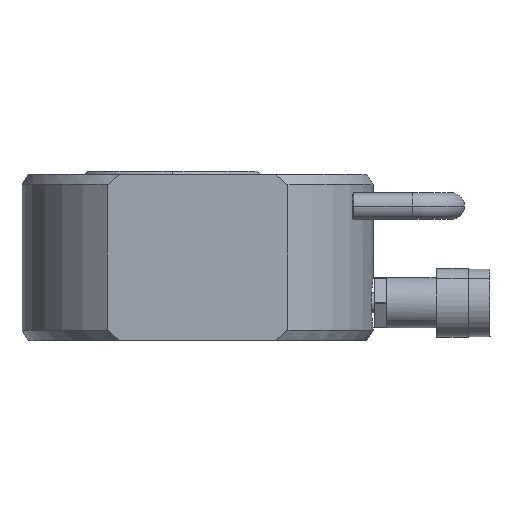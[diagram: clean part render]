
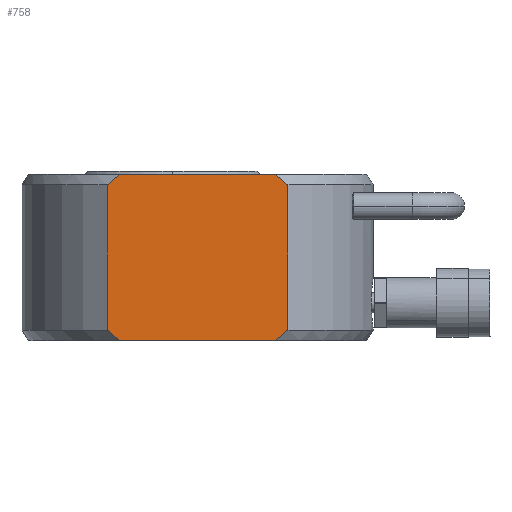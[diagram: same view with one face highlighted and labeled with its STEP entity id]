
A CAD part, left-side view. The second image highlights one B-rep face of the part: STEP entity #758.
In plain terms, the highlighted planar face has unit normal (-1, 0, 0).
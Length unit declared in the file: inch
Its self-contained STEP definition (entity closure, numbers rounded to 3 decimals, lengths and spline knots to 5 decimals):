
#35=DIRECTION('',(0.,-1.,0.));
#36=VECTOR('',#35,3.1141);
#37=CARTESIAN_POINT('',(-3.,1.55705,0.));
#38=LINE('',#37,#36);
#69=DIRECTION('',(0.,-1.,0.));
#70=VECTOR('',#69,3.1141);
#71=CARTESIAN_POINT('',(-3.,1.55705,3.31));
#72=LINE('',#71,#70);
#81=CARTESIAN_POINT('',(-3.,-1.80278,3.10215));
#82=CARTESIAN_POINT('',(-3.,-1.77428,3.12757));
#83=CARTESIAN_POINT('',(-3.,-1.71807,3.17684));
#84=CARTESIAN_POINT('',(-3.,-1.6363,3.24594));
#85=CARTESIAN_POINT('',(-3.,-1.5832,3.28913));
#86=CARTESIAN_POINT('',(-3.,-1.55705,3.31));
#88=CARTESIAN_POINT('',(-3.,-1.80278,0.20785));
#89=CARTESIAN_POINT('',(-3.,-1.77428,0.18243));
#90=CARTESIAN_POINT('',(-3.,-1.71807,0.13316));
#91=CARTESIAN_POINT('',(-3.,-1.6363,0.06406));
#92=CARTESIAN_POINT('',(-3.,-1.5832,0.02087));
#93=CARTESIAN_POINT('',(-3.,-1.55705,0.));
#95=CARTESIAN_POINT('',(-3.,1.55705,0.));
#96=CARTESIAN_POINT('',(-3.,1.58322,0.02088));
#97=CARTESIAN_POINT('',(-3.,1.63634,0.0641));
#98=CARTESIAN_POINT('',(-3.,1.71811,0.1332));
#99=CARTESIAN_POINT('',(-3.,1.7743,0.18244));
#100=CARTESIAN_POINT('',(-3.,1.80278,0.20785));
#102=DIRECTION('',(0.,0.,1.));
#103=VECTOR('',#102,2.89431);
#104=CARTESIAN_POINT('',(-3.,1.80278,0.20785));
#105=LINE('',#104,#103);
#106=CARTESIAN_POINT('',(-3.,1.55705,3.31));
#107=CARTESIAN_POINT('',(-3.,1.58322,3.28912));
#108=CARTESIAN_POINT('',(-3.,1.63634,3.2459));
#109=CARTESIAN_POINT('',(-3.,1.71811,3.1768));
#110=CARTESIAN_POINT('',(-3.,1.7743,3.12756));
#111=CARTESIAN_POINT('',(-3.,1.80278,3.10215));
#215=DIRECTION('',(0.,0.,1.));
#216=VECTOR('',#215,2.89431);
#217=CARTESIAN_POINT('',(-3.,-1.80278,0.20785));
#218=LINE('',#217,#216);
#634=VERTEX_POINT('',#81);
#635=VERTEX_POINT('',#86);
#636=VERTEX_POINT('',#106);
#637=VERTEX_POINT('',#111);
#644=CARTESIAN_POINT('',(-3.,1.80278,0.20785));
#645=VERTEX_POINT('',#644);
#646=CARTESIAN_POINT('',(-3.,-1.80278,0.20785));
#647=VERTEX_POINT('',#646);
#650=VERTEX_POINT('',#93);
#651=VERTEX_POINT('',#95);
#738=CARTESIAN_POINT('',(-3.,1.80278,0.));
#739=DIRECTION('',(-1.,0.,0.));
#740=DIRECTION('',(0.,-1.,0.));
#741=AXIS2_PLACEMENT_3D('',#738,#739,#740);
#742=PLANE('',#741);
#744=ORIENTED_EDGE('',*,*,#743,.F.);
#746=ORIENTED_EDGE('',*,*,#745,.F.);
#748=ORIENTED_EDGE('',*,*,#747,.T.);
#749=ORIENTED_EDGE('',*,*,#665,.F.);
#751=ORIENTED_EDGE('',*,*,#750,.T.);
#752=ORIENTED_EDGE('',*,*,#729,.T.);
#754=ORIENTED_EDGE('',*,*,#753,.F.);
#755=ORIENTED_EDGE('',*,*,#695,.T.);
#756=EDGE_LOOP('',(#744,#746,#748,#749,#751,#752,#754,#755));
#757=FACE_OUTER_BOUND('',#756,.F.);
#758=ADVANCED_FACE('',(#757),#742,.T.);
#87=B_SPLINE_CURVE_WITH_KNOTS('',3,(#81,#82,#83,#84,#85,#86),.UNSPECIFIED.,.F.,
.F.,(4,1,1,4),(0.,0.33333,0.66667,1.),.UNSPECIFIED.);
#94=B_SPLINE_CURVE_WITH_KNOTS('',3,(#88,#89,#90,#91,#92,#93),.UNSPECIFIED.,.F.,
.F.,(4,1,1,4),(0.,0.33333,0.66667,1.),.UNSPECIFIED.);
#101=B_SPLINE_CURVE_WITH_KNOTS('',3,(#95,#96,#97,#98,#99,#100),.UNSPECIFIED.,
.F.,.F.,(4,1,1,4),(0.,0.33333,0.66667,1.),
.UNSPECIFIED.);
#112=B_SPLINE_CURVE_WITH_KNOTS('',3,(#106,#107,#108,#109,#110,#111),
.UNSPECIFIED.,.F.,.F.,(4,1,1,4),(0.,0.33333,0.66667,1.),
.UNSPECIFIED.);
#665=EDGE_CURVE('',#651,#650,#38,.T.);
#695=EDGE_CURVE('',#636,#635,#72,.T.);
#729=EDGE_CURVE('',#645,#637,#105,.T.);
#743=EDGE_CURVE('',#634,#635,#87,.T.);
#745=EDGE_CURVE('',#647,#634,#218,.T.);
#747=EDGE_CURVE('',#647,#650,#94,.T.);
#750=EDGE_CURVE('',#651,#645,#101,.T.);
#753=EDGE_CURVE('',#636,#637,#112,.T.);
